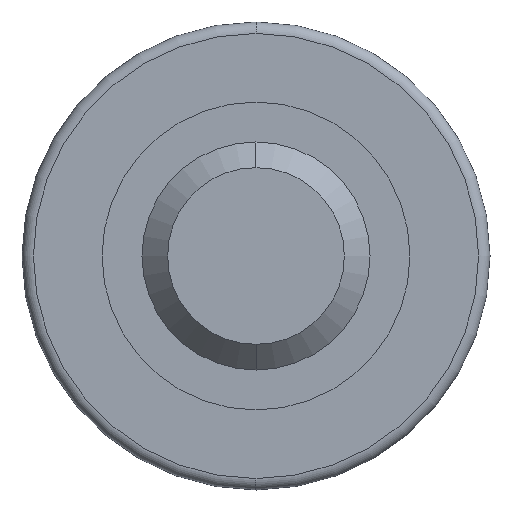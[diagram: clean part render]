
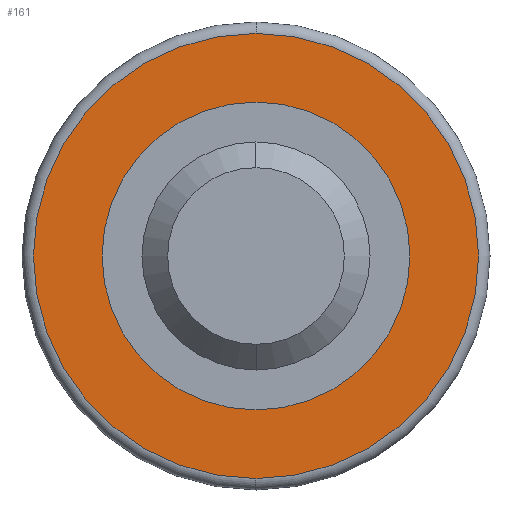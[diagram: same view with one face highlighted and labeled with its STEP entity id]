
A CAD part, left-side view. The second image highlights one B-rep face of the part: STEP entity #161.
In plain terms, the highlighted planar face has unit normal (-1, 0, 0).
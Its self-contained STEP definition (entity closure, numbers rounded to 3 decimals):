
#77 = CARTESIAN_POINT ( 'NONE',  ( 22., 0., 0. ) ) ;
#113 = CARTESIAN_POINT ( 'NONE',  ( 22., 0., 0. ) ) ;
#144 = DIRECTION ( 'NONE',  ( 0., 0., -1. ) ) ;
#149 = FACE_OUTER_BOUND ( 'NONE', #199, .T. ) ;
#156 = AXIS2_PLACEMENT_3D ( 'NONE', #369, #659, #245 ) ;
#161 = ADVANCED_FACE ( 'NONE', ( #149, #596 ), #202, .T. ) ;
#173 = DIRECTION ( 'NONE',  ( 0., 0., 1. ) ) ;
#175 = DIRECTION ( 'NONE',  ( 1., 0., 0. ) ) ;
#191 = CIRCLE ( 'NONE', #419, 27. ) ;
#199 = EDGE_LOOP ( 'NONE', ( #695, #381 ) ) ;
#202 = PLANE ( 'NONE',  #156 ) ;
#209 = EDGE_CURVE ( 'NONE', #263, #459, #469, .T. ) ;
#212 = VERTEX_POINT ( 'NONE', #602 ) ;
#216 = EDGE_LOOP ( 'NONE', ( #238, #408 ) ) ;
#238 = ORIENTED_EDGE ( 'NONE', *, *, #571, .T. ) ;
#245 = DIRECTION ( 'NONE',  ( 0., 0., 1. ) ) ;
#248 = DIRECTION ( 'NONE',  ( -1., 0., 0. ) ) ;
#263 = VERTEX_POINT ( 'NONE', #434 ) ;
#300 = CARTESIAN_POINT ( 'NONE',  ( 22., 0., 39.05 ) ) ;
#341 = AXIS2_PLACEMENT_3D ( 'NONE', #113, #518, #173 ) ;
#369 = CARTESIAN_POINT ( 'NONE',  ( 22., 0., -38.85 ) ) ;
#381 = ORIENTED_EDGE ( 'NONE', *, *, #209, .T. ) ;
#408 = ORIENTED_EDGE ( 'NONE', *, *, #764, .T. ) ;
#419 = AXIS2_PLACEMENT_3D ( 'NONE', #522, #175, #581 ) ;
#431 = CIRCLE ( 'NONE', #644, 27. ) ;
#434 = CARTESIAN_POINT ( 'NONE',  ( 22., 0., -39.05 ) ) ;
#452 = CARTESIAN_POINT ( 'NONE',  ( 22., 0., 27. ) ) ;
#459 = VERTEX_POINT ( 'NONE', #300 ) ;
#469 = CIRCLE ( 'NONE', #553, 39.05 ) ;
#496 = DIRECTION ( 'NONE',  ( 1., 0., 0. ) ) ;
#518 = DIRECTION ( 'NONE',  ( -1., 0., 0. ) ) ;
#522 = CARTESIAN_POINT ( 'NONE',  ( 22., 0., 0. ) ) ;
#553 = AXIS2_PLACEMENT_3D ( 'NONE', #666, #248, #661 ) ;
#571 = EDGE_CURVE ( 'NONE', #212, #704, #431, .T. ) ;
#581 = DIRECTION ( 'NONE',  ( 0., 0., -1. ) ) ;
#596 = FACE_BOUND ( 'NONE', #216, .T. ) ;
#602 = CARTESIAN_POINT ( 'NONE',  ( 22., 0., -27. ) ) ;
#644 = AXIS2_PLACEMENT_3D ( 'NONE', #77, #496, #144 ) ;
#659 = DIRECTION ( 'NONE',  ( -1., 0., 0. ) ) ;
#661 = DIRECTION ( 'NONE',  ( 0., 0., 1. ) ) ;
#666 = CARTESIAN_POINT ( 'NONE',  ( 22., 0., 0. ) ) ;
#679 = CIRCLE ( 'NONE', #341, 39.05 ) ;
#695 = ORIENTED_EDGE ( 'NONE', *, *, #723, .T. ) ;
#704 = VERTEX_POINT ( 'NONE', #452 ) ;
#723 = EDGE_CURVE ( 'NONE', #459, #263, #679, .T. ) ;
#764 = EDGE_CURVE ( 'NONE', #704, #212, #191, .T. ) ;
